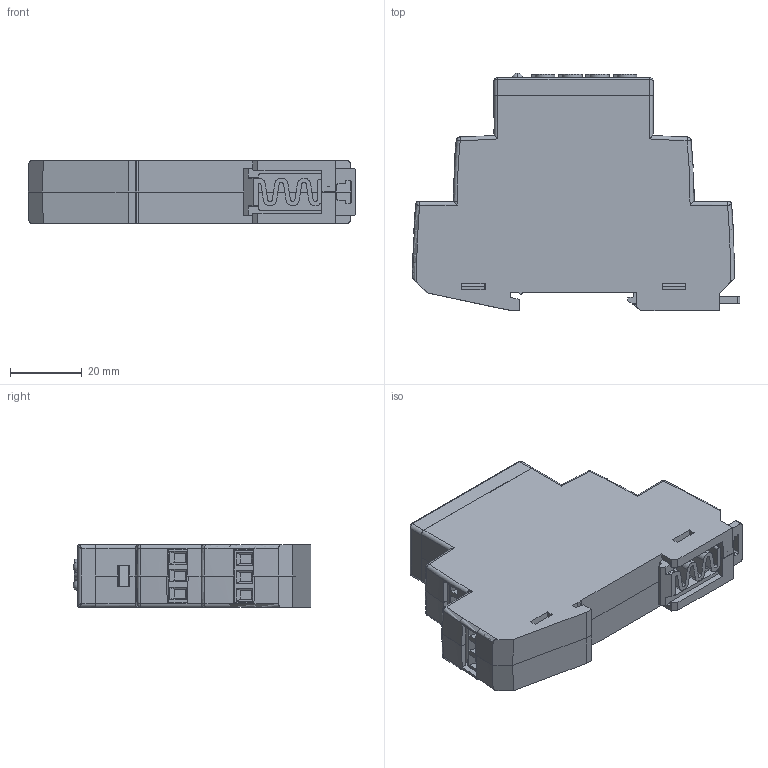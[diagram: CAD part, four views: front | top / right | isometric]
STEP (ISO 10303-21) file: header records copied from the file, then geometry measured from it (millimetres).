
FILE_DESCRIPTION(('FreeCAD Model'),'2;1');
FILE_NAME('Open CASCADE Shape Model','2026-04-03T10:46:24',(''),(''), 'Open CASCADE STEP processor 7.8','FreeCAD','Unknown');
FILE_SCHEMA(('AUTOMOTIVE_DESIGN { 1 0 10303 214 1 1 1 1 }'));
Length unit declared in the file: millimetre
Products named in the file (35): PxE_3D; Macromatic din rail; cover_4 Pot; Dial; din clip002; Dial001; Dial002; Dial003; side left; side right; topboard; tb1; DG128-5.0-03P-14-1000A(H); DG128-5.0-03P-14-1000A(H)001; DG128-5.0-03P-14-1000A(H)017; DG128-5.0-03P-14-1000A(H)018; DG128-5.0-03P-14-1000A(H)019; DG128-5.0-03P-14-1000A(H)020; bot board; TB2; DG128-5.0-03P-14-1000A(H)035; DG128-5.0-03P-14-1000A(H)036; DG128-5.0-03P-14-1000A(H)002; DG128-5.0-03P-14-1000A(H)003; DG128-5.0-03P-14-1000A(H)004; DG128-5.0-03P-14-1000A(H)005; TB3; DG128-5.0-03P-14-1000A(H)007; DG128-5.0-03P-14-1000A(H)008; DG128-5.0-03P-14-1000A(H)009; DG128-5.0-03P-14-1000A(H)010; DG128-5.0-03P-14-1000A(H)011; DG128-5.0-03P-14-1000A(H)012; sideboard; led
Assembly tree (34 placements, depth 4):
  PxE_3D
    Macromatic din rail
      cover_4 Pot
      Dial
      din clip002
      Dial001
      Dial002
      Dial003
      side left
      side right
    topboard
      tb1
        DG128-5.0-03P-14-1000A(H)
        DG128-5.0-03P-14-1000A(H)001
        DG128-5.0-03P-14-1000A(H)017
        DG128-5.0-03P-14-1000A(H)018
        DG128-5.0-03P-14-1000A(H)019
        DG128-5.0-03P-14-1000A(H)020
    bot board
      TB2
        DG128-5.0-03P-14-1000A(H)035
        DG128-5.0-03P-14-1000A(H)036
        DG128-5.0-03P-14-1000A(H)002
        DG128-5.0-03P-14-1000A(H)003
        DG128-5.0-03P-14-1000A(H)004
        DG128-5.0-03P-14-1000A(H)005
      TB3
        DG128-5.0-03P-14-1000A(H)007
        DG128-5.0-03P-14-1000A(H)008
        DG128-5.0-03P-14-1000A(H)009
        DG128-5.0-03P-14-1000A(H)010
        DG128-5.0-03P-14-1000A(H)011
        DG128-5.0-03P-14-1000A(H)012
    sideboard
      led
Bounding box: 91.28 x 66.3 x 17.5 mm (x, y, z)
Volume: 17034.1 mm3; surface area: 35420.8 mm2
Topology: 9 solids, 27 shells, 2181 faces, 6162 edges, 3965 vertices
Faces by surface type: plane 1321, cylinder 347, bspline 271, cone 150, torus 64, sphere 20, revolution 8
Entity records: 81670 total; most frequent: CARTESIAN_POINT 28007, ORIENTED_EDGE 11879, DIRECTION 9695, EDGE_CURVE 5947, VERTEX_POINT 3893, LINE 3531, VECTOR 3531, AXIS2_PLACEMENT_3D 3078
